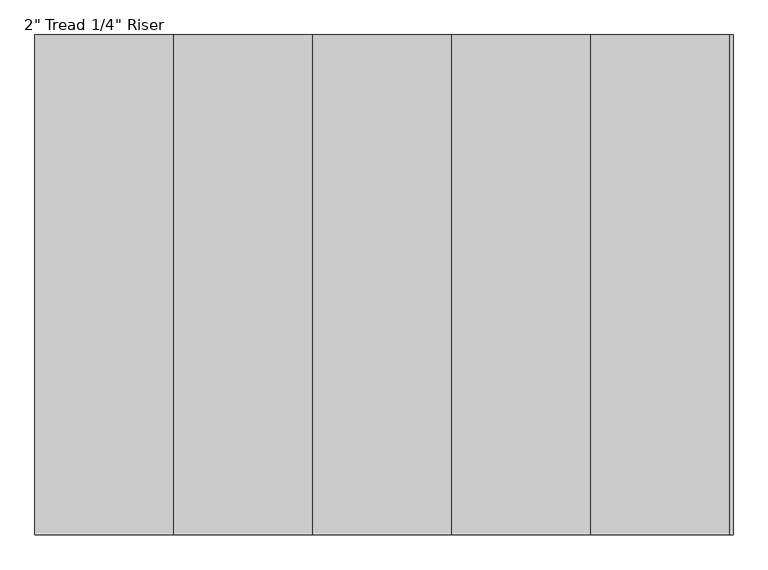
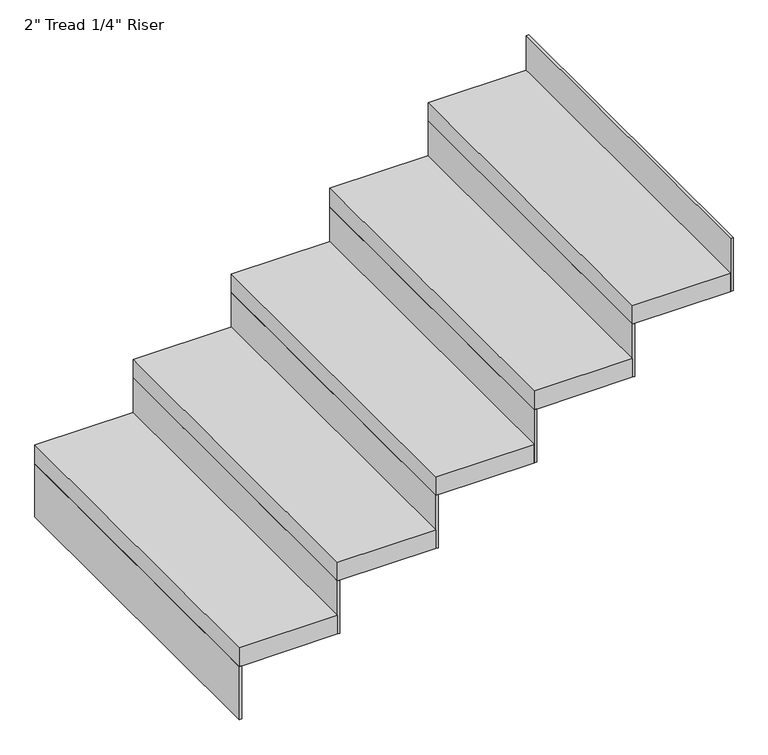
"""IFC4 building model written with IfcOpenShell, lengths in millimetres: stair flight geometry."""

from ifc_helpers import new_model, si_unit, frame, origin, place, context, project, spatial, polyline, outline, extrude, source, transform, mapped, element, save


def stair_flight_e81d561a(model_context):
    return source(origin(), model_context, "Body", "SweptSolid", [
        extrude(outline(polyline([(113629.3286089, -2400.7855758), (113622.9786089, -2400.7855758), (113622.9786089, -1486.3855758), (113629.3286089, -1486.3855758), (113629.3286089, -2400.7855758)])), frame((0.0, 0.0, 2126.3428571), z_axis=(0.0, 0.0, 1.0), x_axis=(1.0, 0.0, 0.0)), (0.0, 0.0, 1.0), 145.1428571),
        extrude(outline(polyline([(113876.9786089, -1486.3855758), (113876.9786089, -2400.7855758), (113622.9786089, -2400.7855758), (113622.9786089, -1486.3855758), (113876.9786089, -1486.3855758)])), frame((0.0, 0.0, 2271.4857143), z_axis=(0.0, 0.0, 1.0), x_axis=(1.0, 0.0, 0.0)), (0.0, 0.0, 1.0), 50.8),
        extrude(outline(polyline([(113883.3286089, -2400.7855758), (113876.9786089, -2400.7855758), (113876.9786089, -1486.3855758), (113883.3286089, -1486.3855758), (113883.3286089, -2400.7855758)])), frame((0.0, 0.0, 2271.4857143), z_axis=(0.0, 0.0, 1.0), x_axis=(1.0, 0.0, 0.0)), (0.0, 0.0, 1.0), 145.1428571),
        extrude(outline(polyline([(114130.9786089, -1486.3855758), (114130.9786089, -2400.7855758), (113876.9786089, -2400.7855758), (113876.9786089, -1486.3855758), (114130.9786089, -1486.3855758)])), frame((0.0, 0.0, 2416.6285714), z_axis=(0.0, 0.0, 1.0), x_axis=(1.0, 0.0, 0.0)), (0.0, 0.0, 1.0), 50.8),
        extrude(outline(polyline([(114137.3286089, -2400.7855758), (114130.9786089, -2400.7855758), (114130.9786089, -1486.3855758), (114137.3286089, -1486.3855758), (114137.3286089, -2400.7855758)])), frame((0.0, 0.0, 2416.6285714), z_axis=(0.0, 0.0, 1.0), x_axis=(1.0, 0.0, 0.0)), (0.0, 0.0, 1.0), 145.1428571),
        extrude(outline(polyline([(114384.9786089, -1486.3855758), (114384.9786089, -2400.7855758), (114130.9786089, -2400.7855758), (114130.9786089, -1486.3855758), (114384.9786089, -1486.3855758)])), frame((0.0, 0.0, 2561.7714286), z_axis=(0.0, 0.0, 1.0), x_axis=(1.0, 0.0, 0.0)), (0.0, 0.0, 1.0), 50.8),
        extrude(outline(polyline([(114391.3286089, -2400.7855758), (114384.9786089, -2400.7855758), (114384.9786089, -1486.3855758), (114391.3286089, -1486.3855758), (114391.3286089, -2400.7855758)])), frame((0.0, 0.0, 2561.7714286), z_axis=(0.0, 0.0, 1.0), x_axis=(1.0, 0.0, 0.0)), (0.0, 0.0, 1.0), 145.1428571),
        extrude(outline(polyline([(114638.9786089, -1486.3855758), (114638.9786089, -2400.7855758), (114384.9786089, -2400.7855758), (114384.9786089, -1486.3855758), (114638.9786089, -1486.3855758)])), frame((0.0, 0.0, 2706.9142857), z_axis=(0.0, 0.0, 1.0), x_axis=(1.0, 0.0, 0.0)), (0.0, 0.0, 1.0), 50.8),
        extrude(outline(polyline([(114645.3286089, -2400.7855758), (114638.9786089, -2400.7855758), (114638.9786089, -1486.3855758), (114645.3286089, -1486.3855758), (114645.3286089, -2400.7855758)])), frame((0.0, 0.0, 2706.9142857), z_axis=(0.0, 0.0, 1.0), x_axis=(1.0, 0.0, 0.0)), (0.0, 0.0, 1.0), 145.1428571),
        extrude(outline(polyline([(114899.3286089, -2400.7855758), (114892.9786089, -2400.7855758), (114892.9786089, -1486.3855758), (114899.3286089, -1486.3855758), (114899.3286089, -2400.7855758)])), frame((0.0, 0.0, 2852.0571429), z_axis=(0.0, 0.0, 1.0), x_axis=(1.0, 0.0, 0.0)), (0.0, 0.0, 1.0), 145.1428571),
        extrude(outline(polyline([(114892.9786089, -1486.3855758), (114892.9786089, -2400.7855758), (114638.9786089, -2400.7855758), (114638.9786089, -1486.3855758), (114892.9786089, -1486.3855758)])), frame((0.0, 0.0, 2852.0571429), z_axis=(0.0, 0.0, 1.0), x_axis=(1.0, 0.0, 0.0)), (0.0, 0.0, 1.0), 50.8),
    ])


if __name__ == "__main__":
    model = new_model("IFC4")
    model_context = context("Model", 3, world=origin())
    ifc_project = project(units=[si_unit("LENGTHUNIT", "METRE", prefix="MILLI")], contexts=[model_context])
    site = spatial("IfcSite", under=ifc_project)
    building = spatial("IfcBuilding", under=site)
    placement = place(None, origin())
    stair_flight_shape = stair_flight_e81d561a(model_context)
    element("IfcStairFlight", 1, ObjectType="2\" Tread 1/4\" Riser", at=placement, inside=building, context=model_context, shape_type="MappedRepresentation", body=[
        mapped(stair_flight_shape, transform((0.0, 0.0, 0.0), x_axis=(1.0, 0.0, 0.0), y_axis=(0.0, 1.0, 0.0), z_axis=(0.0, 0.0, 1.0))),
    ])
    save(model, "model.ifc")
